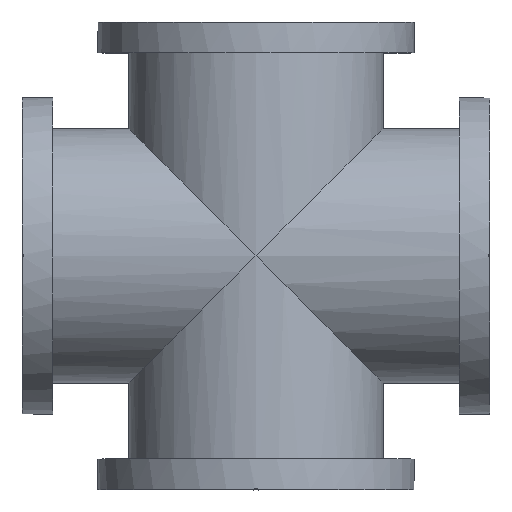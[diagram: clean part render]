
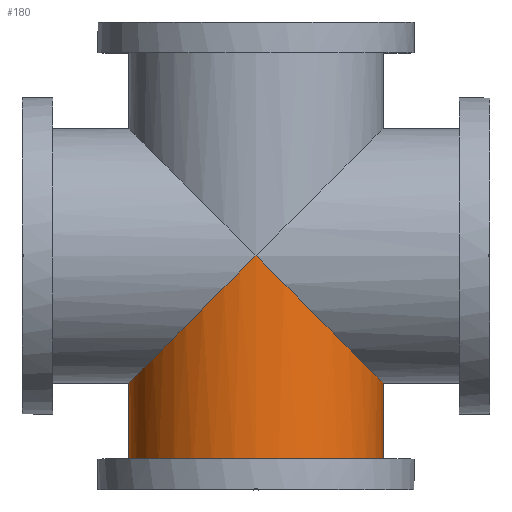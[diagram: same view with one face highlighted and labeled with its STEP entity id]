
A CAD part, top view. The second image highlights one B-rep face of the part: STEP entity #180.
In plain terms, the highlighted cylindrical face has radius 102 mm (diameter 204 mm), a full revolution.
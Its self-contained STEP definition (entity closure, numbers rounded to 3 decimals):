
#180 = ADVANCED_FACE( '', ( #395, #396 ), #397, .T. );
#395 = FACE_OUTER_BOUND( '', #649, .T. );
#396 = FACE_OUTER_BOUND( '', #650, .T. );
#397 = CYLINDRICAL_SURFACE( '', #651, 102. );
#649 = EDGE_LOOP( '', ( #938, #939 ) );
#650 = EDGE_LOOP( '', ( #940 ) );
#651 = AXIS2_PLACEMENT_3D( '', #941, #942, #943 );
#938 = ORIENTED_EDGE( '', *, *, #1148, .F. );
#939 = ORIENTED_EDGE( '', *, *, #1229, .F. );
#940 = ORIENTED_EDGE( '', *, *, #1230, .T. );
#941 = CARTESIAN_POINT( '', ( 0., -178., 0. ) );
#942 = DIRECTION( '', ( 0., -1., 0. ) );
#943 = DIRECTION( '', ( 0., 0., 1. ) );
#1148 = EDGE_CURVE( '', #1282, #1281, #1284, .T. );
#1229 = EDGE_CURVE( '', #1281, #1282, #1424, .T. );
#1230 = EDGE_CURVE( '', #1425, #1425, #1426, .T. );
#1281 = VERTEX_POINT( '', #1490 );
#1282 = VERTEX_POINT( '', #1491 );
#1284 = ELLIPSE( '', #1493, 144.25, 102. );
#1424 = ELLIPSE( '', #1670, 144.25, 102. );
#1425 = VERTEX_POINT( '', #1671 );
#1426 = CIRCLE( '', #1672, 102. );
#1490 = CARTESIAN_POINT( '', ( 0., 0., 102. ) );
#1491 = CARTESIAN_POINT( '', ( 0., 0., -102. ) );
#1493 = AXIS2_PLACEMENT_3D( '', #1774, #1775, #1776 );
#1670 = AXIS2_PLACEMENT_3D( '', #1948, #1949, #1950 );
#1671 = CARTESIAN_POINT( '', ( 102., -178., 0. ) );
#1672 = AXIS2_PLACEMENT_3D( '', #1951, #1952, #1953 );
#1774 = CARTESIAN_POINT( '', ( 0., 0., 0. ) );
#1775 = DIRECTION( '', ( -0.707, 0.707, 0. ) );
#1776 = DIRECTION( '', ( 0.707, 0.707, 0. ) );
#1948 = CARTESIAN_POINT( '', ( 0., 0., 0. ) );
#1949 = DIRECTION( '', ( 0.707, 0.707, 0. ) );
#1950 = DIRECTION( '', ( -0.707, 0.707, 0. ) );
#1951 = CARTESIAN_POINT( '', ( 0., -178., 0. ) );
#1952 = DIRECTION( '', ( 0., 1., 0. ) );
#1953 = DIRECTION( '', ( 1., 0., 0. ) );
